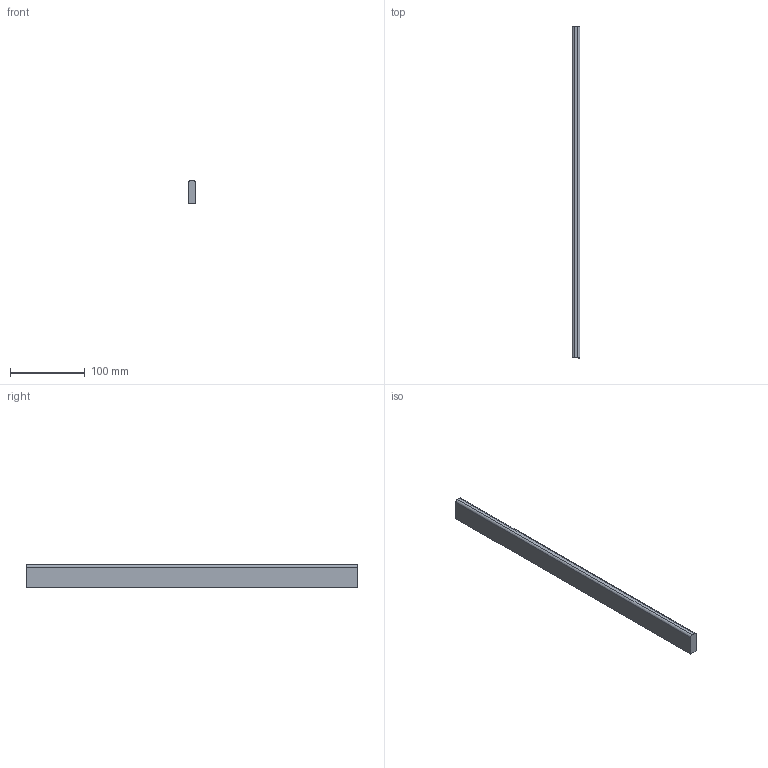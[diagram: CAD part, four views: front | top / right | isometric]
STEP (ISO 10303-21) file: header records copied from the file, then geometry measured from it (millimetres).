
FILE_DESCRIPTION (( 'STEP AP214' ), '1' );
FILE_NAME ('_Seitenreling_SP60700300_RL445.step', '2010-09-06T14:52:15', ( 'grass' ), ( '' ), 'SwSTEP 2.0', 'SolidWorks 2010', '' );
FILE_SCHEMA (( 'AUTOMOTIVE_DESIGN' ));
Length unit declared in the file: millimetre
Products named in the file (1): _Seitenreling_SP60700300_RL445
Bounding box: 10.5 x 445 x 30 mm (x, y, z)
Volume: 138456 mm3; surface area: 35521.3 mm2
Topology: 1 solids, 1 shells, 8 faces, 18 edges, 12 vertices
Faces by surface type: plane 6, cylinder 2
Entity records: 260 total; most frequent: DIRECTION 40, CARTESIAN_POINT 39, ORIENTED_EDGE 36, EDGE_CURVE 18, LINE 14, VECTOR 14, AXIS2_PLACEMENT_3D 13, VERTEX_POINT 12
